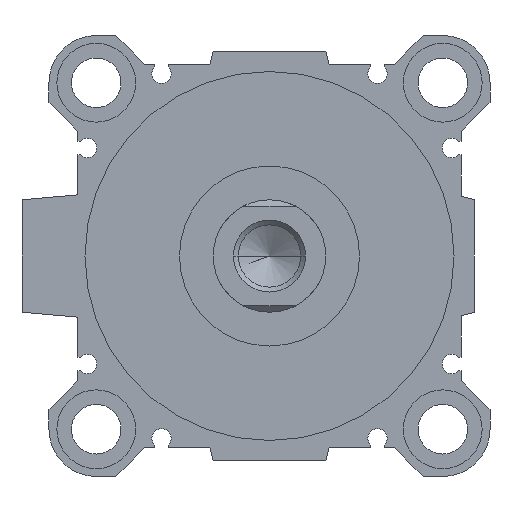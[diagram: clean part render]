
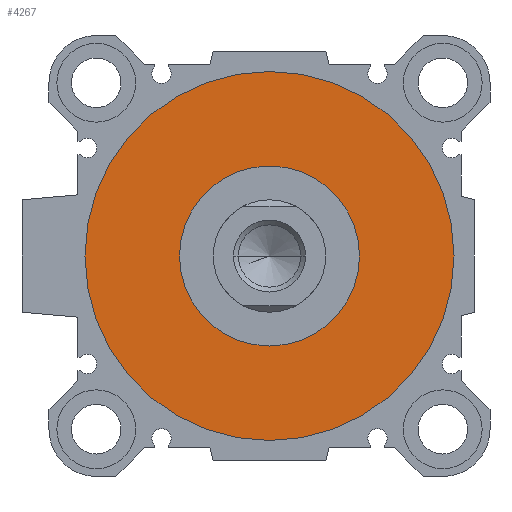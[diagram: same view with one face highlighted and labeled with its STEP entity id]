
A CAD part, left-side view. The second image highlights one B-rep face of the part: STEP entity #4267.
In plain terms, the highlighted planar face has unit normal (-1, 0, 0).
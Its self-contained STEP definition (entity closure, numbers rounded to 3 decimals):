
#16 = AXIS2_PLACEMENT_3D ( 'NONE', #1170, #246, #3671 ) ;
#246 = DIRECTION ( 'NONE',  ( 1., 0., 0. ) ) ;
#449 = EDGE_LOOP ( 'NONE', ( #3433, #5385 ) ) ;
#572 = CARTESIAN_POINT ( 'NONE',  ( 5., 0., 41. ) ) ;
#678 = EDGE_CURVE ( 'NONE', #4215, #2889, #3529, .T. ) ;
#742 = ORIENTED_EDGE ( 'NONE', *, *, #1290, .T. ) ;
#1050 = FACE_OUTER_BOUND ( 'NONE', #449, .T. ) ;
#1170 = CARTESIAN_POINT ( 'NONE',  ( 5., 0., 0. ) ) ;
#1290 = EDGE_CURVE ( 'NONE', #2889, #4215, #5029, .T. ) ;
#1482 = PLANE ( 'NONE',  #2645 ) ;
#1701 = VERTEX_POINT ( 'NONE', #572 ) ;
#1899 = DIRECTION ( 'NONE',  ( 0., 1., 0. ) ) ;
#2344 = FACE_BOUND ( 'NONE', #2905, .T. ) ;
#2600 = CARTESIAN_POINT ( 'NONE',  ( 5., 0., 20. ) ) ;
#2645 = AXIS2_PLACEMENT_3D ( 'NONE', #3134, #4457, #1899 ) ;
#2724 = CARTESIAN_POINT ( 'NONE',  ( 5., 0., -20. ) ) ;
#2824 = AXIS2_PLACEMENT_3D ( 'NONE', #4190, #4296, #3855 ) ;
#2875 = DIRECTION ( 'NONE',  ( 0., 0., -1. ) ) ;
#2889 = VERTEX_POINT ( 'NONE', #2600 ) ;
#2905 = EDGE_LOOP ( 'NONE', ( #742, #4379 ) ) ;
#2996 = CIRCLE ( 'NONE', #16, 41. ) ;
#3134 = CARTESIAN_POINT ( 'NONE',  ( 5., 0., 0. ) ) ;
#3433 = ORIENTED_EDGE ( 'NONE', *, *, #4497, .F. ) ;
#3529 = CIRCLE ( 'NONE', #4673, 20. ) ;
#3671 = DIRECTION ( 'NONE',  ( 0., 0., -1. ) ) ;
#3731 = DIRECTION ( 'NONE',  ( 1., 0., 0. ) ) ;
#3803 = AXIS2_PLACEMENT_3D ( 'NONE', #5213, #3731, #2875 ) ;
#3855 = DIRECTION ( 'NONE',  ( 0., 0., -1. ) ) ;
#3984 = CARTESIAN_POINT ( 'NONE',  ( 5., 0., 0. ) ) ;
#3989 = CARTESIAN_POINT ( 'NONE',  ( 5., 0., -41. ) ) ;
#4190 = CARTESIAN_POINT ( 'NONE',  ( 5., 0., 0. ) ) ;
#4215 = VERTEX_POINT ( 'NONE', #2724 ) ;
#4267 = ADVANCED_FACE ( 'NONE', ( #1050, #2344 ), #1482, .F. ) ;
#4296 = DIRECTION ( 'NONE',  ( 1., 0., 0. ) ) ;
#4379 = ORIENTED_EDGE ( 'NONE', *, *, #678, .T. ) ;
#4457 = DIRECTION ( 'NONE',  ( 1., 0., 0. ) ) ;
#4497 = EDGE_CURVE ( 'NONE', #1701, #5356, #2996, .T. ) ;
#4673 = AXIS2_PLACEMENT_3D ( 'NONE', #3984, #4807, #5273 ) ;
#4807 = DIRECTION ( 'NONE',  ( 1., 0., 0. ) ) ;
#4844 = CIRCLE ( 'NONE', #2824, 41. ) ;
#5029 = CIRCLE ( 'NONE', #3803, 20. ) ;
#5213 = CARTESIAN_POINT ( 'NONE',  ( 5., 0., 0. ) ) ;
#5214 = EDGE_CURVE ( 'NONE', #5356, #1701, #4844, .T. ) ;
#5273 = DIRECTION ( 'NONE',  ( 0., 0., -1. ) ) ;
#5356 = VERTEX_POINT ( 'NONE', #3989 ) ;
#5385 = ORIENTED_EDGE ( 'NONE', *, *, #5214, .F. ) ;
